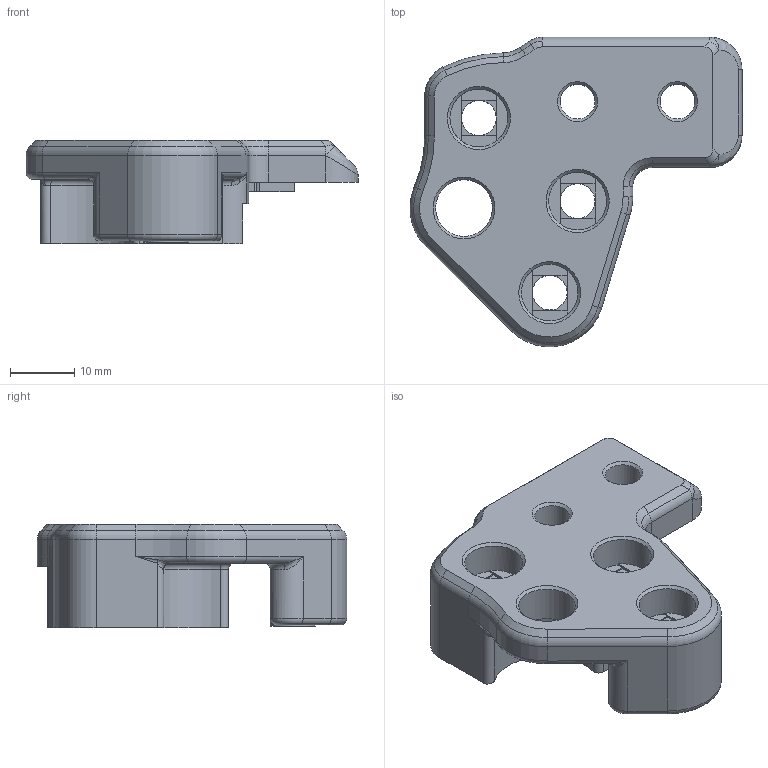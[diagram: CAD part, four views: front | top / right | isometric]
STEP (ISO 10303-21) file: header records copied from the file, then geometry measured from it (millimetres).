
FILE_DESCRIPTION(/* description */ (''),/* implementation_level */ '2;1');
FILE_NAME(/* name */ 'XY-Joint-Left-Upper 430mm.step',/* time_stamp */ '2023-02-24T21:07:44+01:00',/* author */ (''),/* organization */ (''),/* preprocessor_version */ 'ST-DEVELOPER v19.2',/* originating_system */ 'Autodesk Translation Framework v11.17.0.187',/* authorisation */ '');
FILE_SCHEMA (('AUTOMOTIVE_DESIGN { 1 0 10303 214 3 1 1 }'));
Length unit declared in the file: millimetre
Products named in the file (1): (Unsaved)
Bounding box: 51.51 x 48 x 16 mm (x, y, z)
Volume: 13559.2 mm3; surface area: 6726.4 mm2
Topology: 1 solids, 1 shells, 174 faces, 436 edges, 262 vertices
Faces by surface type: plane 71, cylinder 54, torus 21, cone 16, bspline 10, sphere 2
Full cylindrical faces by diameter (mm): 5.4 x5, 7 x1, 8.8 x2, 9 x2
Entity records: 5524 total; most frequent: CARTESIAN_POINT 1247, DIRECTION 937, ORIENTED_EDGE 866, EDGE_CURVE 433, AXIS2_PLACEMENT_3D 356, VERTEX_POINT 262, LINE 225, VECTOR 225
